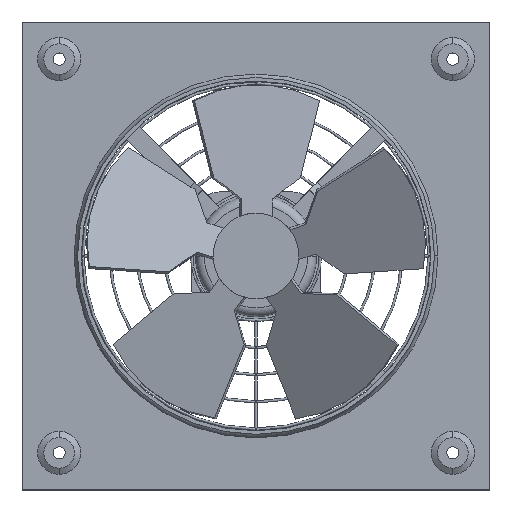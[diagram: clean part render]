
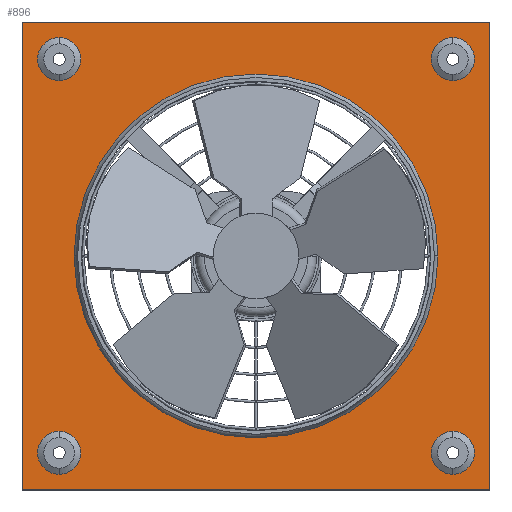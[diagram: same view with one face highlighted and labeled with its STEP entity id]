
A CAD part, top view. The second image highlights one B-rep face of the part: STEP entity #896.
In plain terms, the highlighted planar face has unit normal (0, 0, 1).
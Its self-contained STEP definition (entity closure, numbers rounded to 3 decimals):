
#896=ADVANCED_FACE('',(#1829,#1830,#1831,#1832,#1833,#1834),#1835,.T.);
#1829=FACE_BOUND('',#2766,.T.);
#1830=FACE_BOUND('',#2767,.T.);
#1831=FACE_BOUND('',#2768,.T.);
#1832=FACE_BOUND('',#2769,.T.);
#1833=FACE_OUTER_BOUND('',#2770,.T.);
#1834=FACE_BOUND('',#2771,.T.);
#1835=PLANE('',#2772);
#2766=EDGE_LOOP('',(#5582,#5583));
#2767=EDGE_LOOP('',(#5584,#5585));
#2768=EDGE_LOOP('',(#5586,#5587));
#2769=EDGE_LOOP('',(#5588,#5589));
#2770=EDGE_LOOP('',(#5590,#5591,#5592,#5593));
#2771=EDGE_LOOP('',(#5594,#5595,#5596));
#2772=AXIS2_PLACEMENT_3D('',#5597,#5598,#5599);
#5582=ORIENTED_EDGE('',*,*,#6746,.T.);
#5583=ORIENTED_EDGE('',*,*,#5924,.T.);
#5584=ORIENTED_EDGE('',*,*,#6750,.T.);
#5585=ORIENTED_EDGE('',*,*,#5919,.T.);
#5586=ORIENTED_EDGE('',*,*,#6754,.T.);
#5587=ORIENTED_EDGE('',*,*,#5914,.T.);
#5588=ORIENTED_EDGE('',*,*,#6758,.T.);
#5589=ORIENTED_EDGE('',*,*,#5909,.T.);
#5590=ORIENTED_EDGE('',*,*,#6775,.T.);
#5591=ORIENTED_EDGE('',*,*,#6776,.T.);
#5592=ORIENTED_EDGE('',*,*,#6777,.T.);
#5593=ORIENTED_EDGE('',*,*,#6778,.T.);
#5594=ORIENTED_EDGE('',*,*,#6779,.F.);
#5595=ORIENTED_EDGE('',*,*,#6780,.F.);
#5596=ORIENTED_EDGE('',*,*,#5880,.F.);
#5597=CARTESIAN_POINT('',(0.0,0.0,15.975));
#5598=DIRECTION('',(0.0,0.0,1.0));
#5599=DIRECTION('',(1.0,0.0,0.0));
#5880=EDGE_CURVE('',#7162,#7164,#7165,.T.);
#5909=EDGE_CURVE('',#7216,#7213,#7217,.T.);
#5914=EDGE_CURVE('',#7225,#7222,#7226,.T.);
#5919=EDGE_CURVE('',#7234,#7231,#7235,.T.);
#5924=EDGE_CURVE('',#7243,#7240,#7244,.T.);
#6746=EDGE_CURVE('',#7240,#7243,#8383,.T.);
#6750=EDGE_CURVE('',#7231,#7234,#8387,.T.);
#6754=EDGE_CURVE('',#7222,#7225,#8391,.T.);
#6758=EDGE_CURVE('',#7213,#7216,#8395,.T.);
#6775=EDGE_CURVE('',#8412,#8413,#8414,.T.);
#6776=EDGE_CURVE('',#8413,#8415,#8416,.T.);
#6777=EDGE_CURVE('',#8415,#8417,#8418,.T.);
#6778=EDGE_CURVE('',#8417,#8412,#8419,.T.);
#6779=EDGE_CURVE('',#8420,#7162,#8421,.T.);
#6780=EDGE_CURVE('',#7164,#8420,#8422,.T.);
#7162=VERTEX_POINT('',#11874);
#7164=VERTEX_POINT('',#11876);
#7165=CIRCLE('',#11877,155.5);
#7213=VERTEX_POINT('',#11935);
#7216=VERTEX_POINT('',#11939);
#7217=CIRCLE('',#11940,18.375);
#7222=VERTEX_POINT('',#11946);
#7225=VERTEX_POINT('',#11950);
#7226=CIRCLE('',#11951,18.375);
#7231=VERTEX_POINT('',#11957);
#7234=VERTEX_POINT('',#11961);
#7235=CIRCLE('',#11962,18.375);
#7240=VERTEX_POINT('',#11968);
#7243=VERTEX_POINT('',#11972);
#7244=CIRCLE('',#11973,18.375);
#8383=CIRCLE('',#16339,18.375);
#8387=CIRCLE('',#16343,18.375);
#8391=CIRCLE('',#16347,18.375);
#8395=CIRCLE('',#16351,18.375);
#8412=VERTEX_POINT('',#16368);
#8413=VERTEX_POINT('',#16369);
#8414=LINE('',#16370,#16371);
#8415=VERTEX_POINT('',#16372);
#8416=LINE('',#16373,#16374);
#8417=VERTEX_POINT('',#16375);
#8418=LINE('',#16376,#16377);
#8419=LINE('',#16378,#16379);
#8420=VERTEX_POINT('',#16380);
#8421=CIRCLE('',#16381,155.5);
#8422=CIRCLE('',#16382,155.5);
#11874=CARTESIAN_POINT('',(-155.5,0.,15.975));
#11876=CARTESIAN_POINT('',(155.5,0.,15.975));
#11877=AXIS2_PLACEMENT_3D('',#16605,#16606,#16607);
#11935=CARTESIAN_POINT('',(-168.25,-149.875,15.975));
#11939=CARTESIAN_POINT('',(-168.25,-186.625,15.975));
#11940=AXIS2_PLACEMENT_3D('',#16652,#16653,#16654);
#11946=CARTESIAN_POINT('',(-168.25,186.625,15.975));
#11950=CARTESIAN_POINT('',(-168.25,149.875,15.975));
#11951=AXIS2_PLACEMENT_3D('',#16660,#16661,#16662);
#11957=CARTESIAN_POINT('',(168.25,-149.875,15.975));
#11961=CARTESIAN_POINT('',(168.25,-186.625,15.975));
#11962=AXIS2_PLACEMENT_3D('',#16668,#16669,#16670);
#11968=CARTESIAN_POINT('',(168.25,186.625,15.975));
#11972=CARTESIAN_POINT('',(168.25,149.875,15.975));
#11973=AXIS2_PLACEMENT_3D('',#16676,#16677,#16678);
#16339=AXIS2_PLACEMENT_3D('',#17475,#17476,#17477);
#16343=AXIS2_PLACEMENT_3D('',#17481,#17482,#17483);
#16347=AXIS2_PLACEMENT_3D('',#17487,#17488,#17489);
#16351=AXIS2_PLACEMENT_3D('',#17493,#17494,#17495);
#16368=CARTESIAN_POINT('',(200.0,-200.0,15.975));
#16369=CARTESIAN_POINT('',(200.0,200.0,15.975));
#16370=CARTESIAN_POINT('',(200.0,0.0,15.975));
#16371=VECTOR('',#17511,1.0);
#16372=CARTESIAN_POINT('',(-200.0,200.0,15.975));
#16373=CARTESIAN_POINT('',(0.0,200.0,15.975));
#16374=VECTOR('',#17512,1.0);
#16375=CARTESIAN_POINT('',(-200.0,-200.0,15.975));
#16376=CARTESIAN_POINT('',(-200.0,0.0,15.975));
#16377=VECTOR('',#17513,1.0);
#16378=CARTESIAN_POINT('',(0.0,-200.0,15.975));
#16379=VECTOR('',#17514,1.0);
#16380=CARTESIAN_POINT('',(0.,155.5,15.975));
#16381=AXIS2_PLACEMENT_3D('',#17515,#17516,#17517);
#16382=AXIS2_PLACEMENT_3D('',#17518,#17519,#17520);
#16605=CARTESIAN_POINT('',(0.,0.0,15.975));
#16606=DIRECTION('',(0.,-0.0,1.0));
#16607=DIRECTION('',(0.0,1.0,0.0));
#16652=CARTESIAN_POINT('',(-168.25,-168.25,15.975));
#16653=DIRECTION('',(0.0,0.0,-1.0));
#16654=DIRECTION('',(0.0,1.0,0.0));
#16660=CARTESIAN_POINT('',(-168.25,168.25,15.975));
#16661=DIRECTION('',(0.0,0.0,-1.0));
#16662=DIRECTION('',(0.0,1.0,0.0));
#16668=CARTESIAN_POINT('',(168.25,-168.25,15.975));
#16669=DIRECTION('',(0.0,0.0,-1.0));
#16670=DIRECTION('',(0.0,1.0,0.0));
#16676=CARTESIAN_POINT('',(168.25,168.25,15.975));
#16677=DIRECTION('',(0.0,0.0,-1.0));
#16678=DIRECTION('',(0.0,1.0,0.0));
#17475=CARTESIAN_POINT('',(168.25,168.25,15.975));
#17476=DIRECTION('',(0.0,0.0,-1.0));
#17477=DIRECTION('',(0.0,1.0,0.0));
#17481=CARTESIAN_POINT('',(168.25,-168.25,15.975));
#17482=DIRECTION('',(0.0,0.0,-1.0));
#17483=DIRECTION('',(0.0,1.0,0.0));
#17487=CARTESIAN_POINT('',(-168.25,168.25,15.975));
#17488=DIRECTION('',(0.0,0.0,-1.0));
#17489=DIRECTION('',(0.0,1.0,0.0));
#17493=CARTESIAN_POINT('',(-168.25,-168.25,15.975));
#17494=DIRECTION('',(0.0,0.0,-1.0));
#17495=DIRECTION('',(0.0,1.0,0.0));
#17511=DIRECTION('',(0.0,1.0,0.0));
#17512=DIRECTION('',(-1.0,0.0,0.0));
#17513=DIRECTION('',(0.0,-1.0,0.0));
#17514=DIRECTION('',(1.0,0.0,0.0));
#17515=CARTESIAN_POINT('',(0.,0.0,15.975));
#17516=DIRECTION('',(0.,-0.0,1.0));
#17517=DIRECTION('',(0.0,1.0,0.0));
#17518=CARTESIAN_POINT('',(0.,0.0,15.975));
#17519=DIRECTION('',(0.,-0.0,1.0));
#17520=DIRECTION('',(0.0,1.0,0.0));
